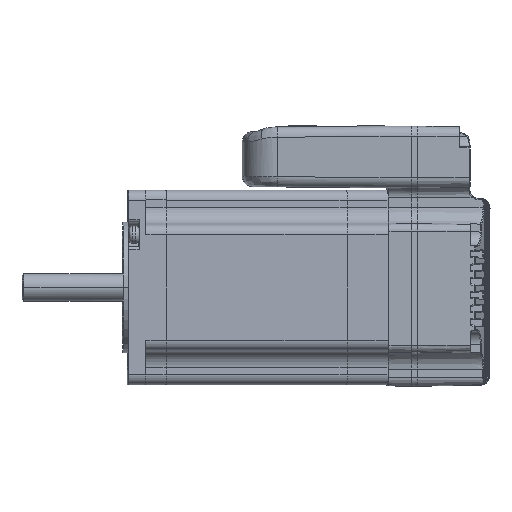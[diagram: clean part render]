
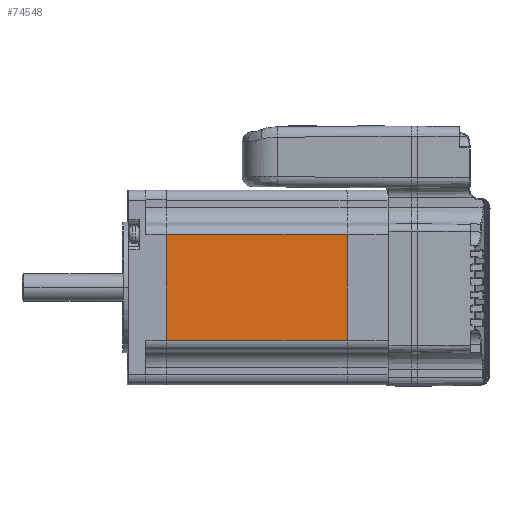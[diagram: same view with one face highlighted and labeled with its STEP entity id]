
A CAD part, left-side view. The second image highlights one B-rep face of the part: STEP entity #74548.
In plain terms, the highlighted planar face has unit normal (-1, -0.009, 0) as drawn and (-1, 0, 0) by its records, which use the part's own axes.
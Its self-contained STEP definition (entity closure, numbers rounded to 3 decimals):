
#61038 = CARTESIAN_POINT ( 'NONE',  ( -28.5, -15.5, 0. ) ) ;
#61093 = AXIS2_PLACEMENT_3D ( 'NONE', #61107, #61257, #61254 ) ;
#61107 = CARTESIAN_POINT ( 'NONE',  ( -28.5, -62.841, 53. ) ) ;
#61121 = FACE_OUTER_BOUND ( 'NONE', #74528, .T. ) ;
#61156 = DIRECTION ( 'NONE',  ( 0., 0., -1. ) ) ;
#61157 = VECTOR ( 'NONE', #61156, 1000. ) ;
#61160 = CARTESIAN_POINT ( 'NONE',  ( -28.5, 15.5, 53. ) ) ;
#61163 = CARTESIAN_POINT ( 'NONE',  ( -28.5, -15.5, 53. ) ) ;
#61166 = LINE ( 'NONE', #61160, #61157 ) ;
#61170 = DIRECTION ( 'NONE',  ( 0., 1., 0. ) ) ;
#61172 = VECTOR ( 'NONE', #61170, 1000. ) ;
#61174 = CARTESIAN_POINT ( 'NONE',  ( -28.5, -62.841, 0. ) ) ;
#61176 = LINE ( 'NONE', #61174, #61172 ) ;
#61177 = CARTESIAN_POINT ( 'NONE',  ( -28.5, 15.5, 53. ) ) ;
#61254 = DIRECTION ( 'NONE',  ( 0., 0., 1. ) ) ;
#61257 = DIRECTION ( 'NONE',  ( -1., 0., 0. ) ) ;
#61288 = DIRECTION ( 'NONE',  ( 0., 0., -1. ) ) ;
#61291 = VECTOR ( 'NONE', #61288, 1000. ) ;
#61294 = CARTESIAN_POINT ( 'NONE',  ( -28.5, -15.5, 53. ) ) ;
#61295 = LINE ( 'NONE', #61294, #61291 ) ;
#61304 = PLANE ( 'NONE',  #61093 ) ;
#61432 = CARTESIAN_POINT ( 'NONE',  ( -28.5, 15.5, 0. ) ) ;
#61931 = LINE ( 'NONE', #62103, #62101 ) ;
#62099 = DIRECTION ( 'NONE',  ( 0., 1., 0. ) ) ;
#62101 = VECTOR ( 'NONE', #62099, 1000. ) ;
#62103 = CARTESIAN_POINT ( 'NONE',  ( -28.5, -62.841, 53. ) ) ;
#74518 = EDGE_CURVE ( 'NONE', #74525, #74588, #61176, .T. ) ;
#74519 = EDGE_CURVE ( 'NONE', #74523, #74588, #61166, .T. ) ;
#74521 = VERTEX_POINT ( 'NONE', #61163 ) ;
#74523 = VERTEX_POINT ( 'NONE', #61177 ) ;
#74525 = VERTEX_POINT ( 'NONE', #61038 ) ;
#74528 = EDGE_LOOP ( 'NONE', ( #74531, #74551, #74712, #74700 ) ) ;
#74531 = ORIENTED_EDGE ( 'NONE', *, *, #74518, .F. ) ;
#74542 = EDGE_CURVE ( 'NONE', #74521, #74525, #61295, .T. ) ;
#74548 = ADVANCED_FACE ( 'NONE', ( #61121 ), #61304, .T. ) ;
#74551 = ORIENTED_EDGE ( 'NONE', *, *, #74542, .F. ) ;
#74588 = VERTEX_POINT ( 'NONE', #61432 ) ;
#74700 = ORIENTED_EDGE ( 'NONE', *, *, #74519, .T. ) ;
#74703 = EDGE_CURVE ( 'NONE', #74521, #74523, #61931, .T. ) ;
#74712 = ORIENTED_EDGE ( 'NONE', *, *, #74703, .T. ) ;
